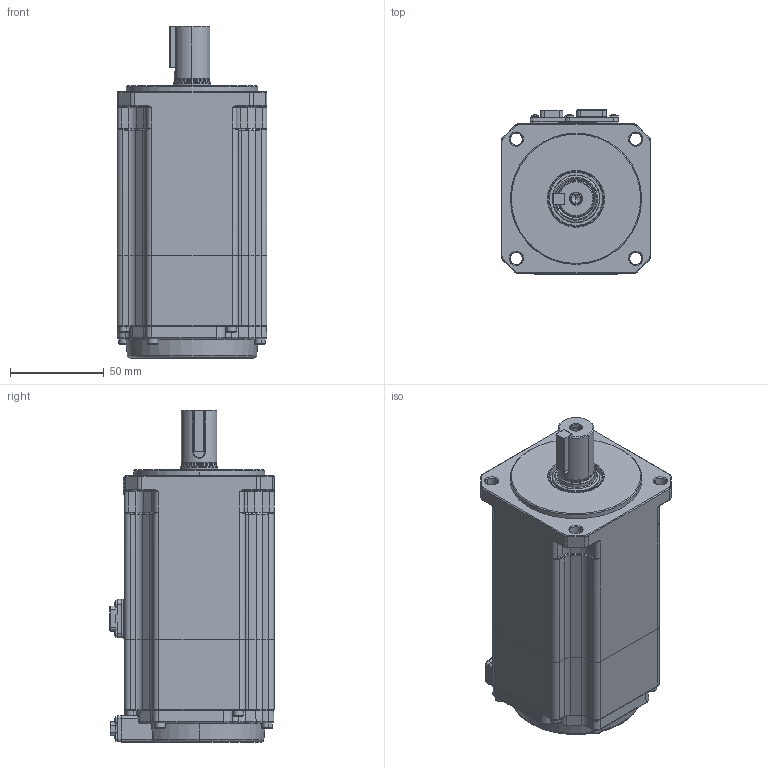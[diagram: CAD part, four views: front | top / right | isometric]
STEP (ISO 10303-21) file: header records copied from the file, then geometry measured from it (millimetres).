
FILE_DESCRIPTION (( 'STEP AP214' ), '1' );
FILE_NAME ('80-1000W-衄蚐猾衄秶雄ん(RSK1-H080A10B30E).STEP', '2024-09-06T11:10:26', ( '' ), ( '' ), 'SwSTEP 2.0', 'SolidWorks 2020', '' );
FILE_SCHEMA (( 'AUTOMOTIVE_DESIGN' ));
Length unit declared in the file: millimetre
Products named in the file (12): 3111000005_内六角圆柱头螺钉_M3x45(GBT70.1-2000 锌镍合金 黑色 耐落 12.9级）; 2142000005_儂褲禱矗_RSK1-H080A10B30S36; 3111000003_内六角圆柱头螺钉_M3x10(GBT70.1-2000 锌镍合金 黑色 耐落 12.9级）; 3220000002_蚐猾_TC20x30x4(NBR); 80-1000W-衄蚐猾衄秶雄ん(RSK1-H080A10B30E); 3130000002_す瑩_B6x6x22(GBT1096-2003 湍れ瑩蹟謂M3); 2181000003_綴裔_RSK1-H080A08B30S36; 3231000003_勾板螺丝型6pin连接器插座_GAMC3063; 苤萇儂晤鎢傷赽; 2151000006_粣_RSK1-H080A08B30S36; 3114000001_十字槽盘头自挤螺钉_M2x5(GBT6560-2014 锌镍合金 黑色); 2174000004_綴傷裔禱矗_RSK1-H080A08B30E36
Assembly tree (24 placements, depth 2):
  80-1000W-衄蚐猾衄秶雄ん(RSK1-H080A10B30E)
    2142000005_儂褲禱矗_RSK1-H080A10B30S36
    2151000006_粣_RSK1-H080A08B30S36
    2174000004_綴傷裔禱矗_RSK1-H080A08B30E36
    2181000003_綴裔_RSK1-H080A08B30S36
    3111000003_内六角圆柱头螺钉_M3x10(GBT70.1-2000 锌镍合金 黑色 耐落 12.9级）  x4
    3111000005_内六角圆柱头螺钉_M3x45(GBT70.1-2000 锌镍合金 黑色 耐落 12.9级）  x4
    3114000001_十字槽盘头自挤螺钉_M2x5(GBT6560-2014 锌镍合金 黑色)  x8
    3130000002_す瑩_B6x6x22(GBT1096-2003 湍れ瑩蹟謂M3)
    3220000002_蚐猾_TC20x30x4(NBR)
    3231000003_勾板螺丝型6pin连接器插座_GAMC3063
    苤萇儂晤鎢傷赽
Bounding box: 80 x 87.6 x 177.1 mm (x, y, z)
Volume: 680139.4 mm3; surface area: 106135.5 mm2
Topology: 27 solids, 27 shells, 3032 faces, 7727 edges, 4845 vertices
Faces by surface type: plane 1435, cylinder 685, bspline 303, cone 285, torus 283, sphere 41
Entity records: 99848 total; most frequent: CARTESIAN_POINT 27411, ORIENTED_EDGE 13634, DIRECTION 12484, EDGE_CURVE 6817, VERTEX_POINT 4295, AXIS2_PLACEMENT_3D 4285, VECTOR 3914, LINE 3914
